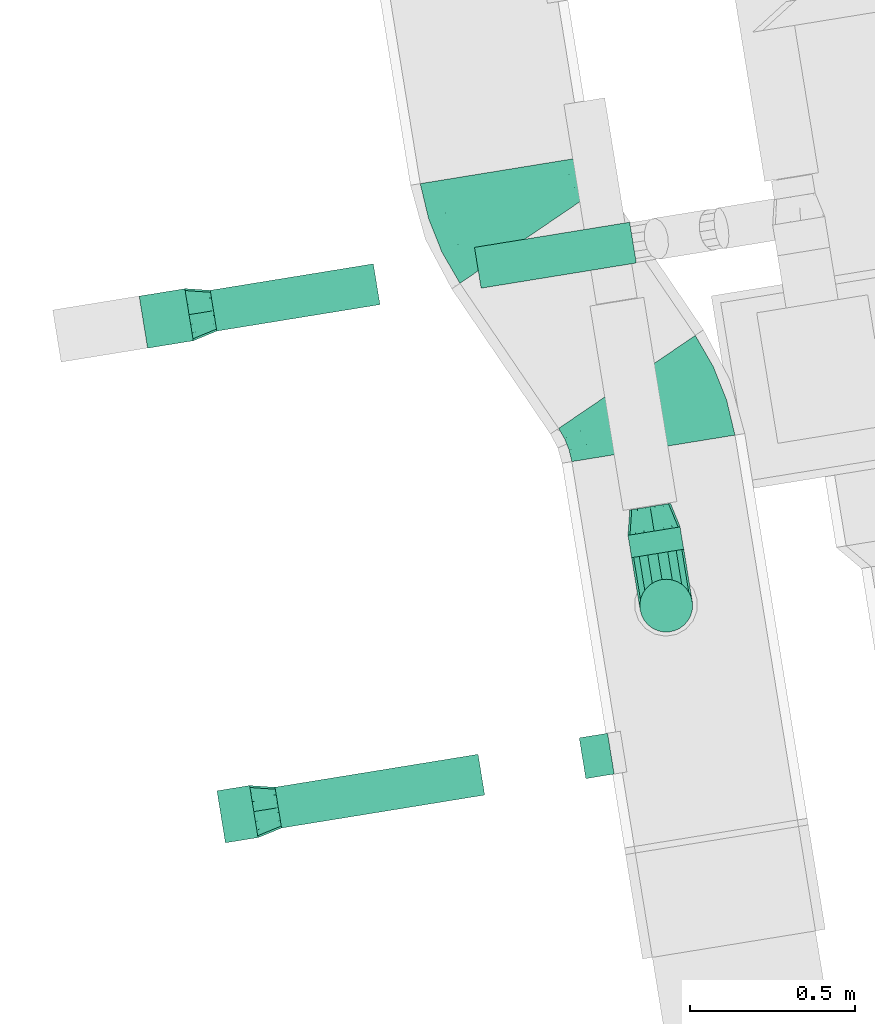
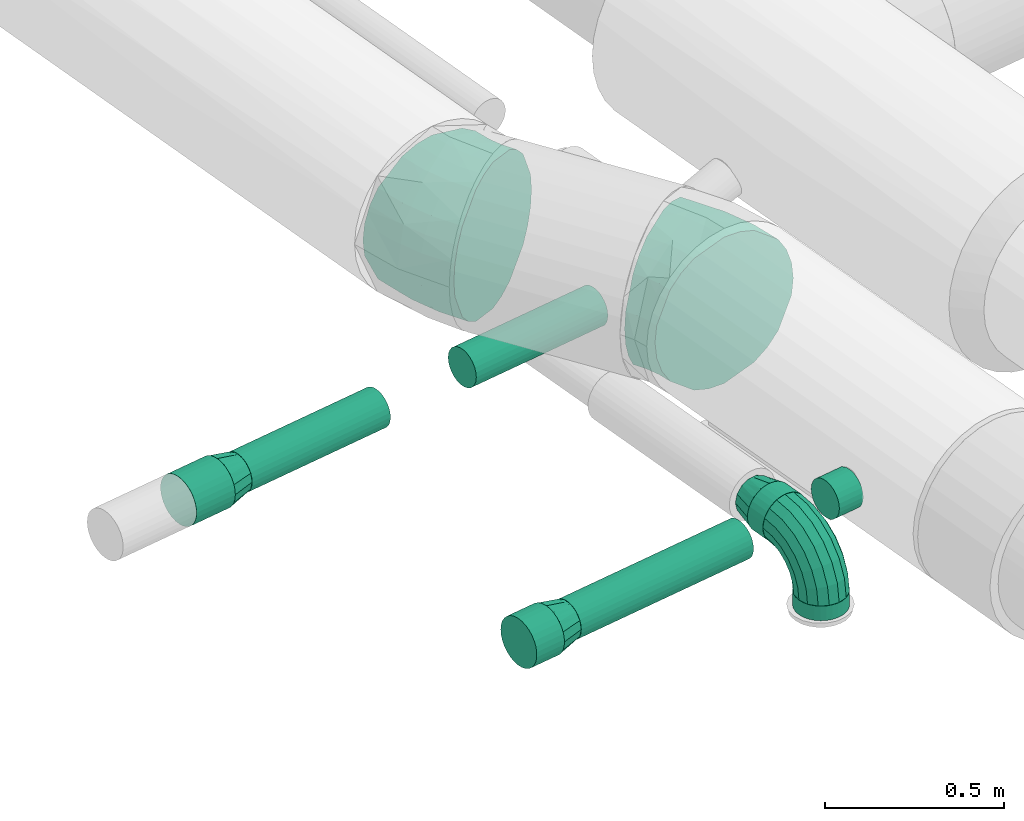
# One storey, part 16 of 39: 8 flow segments, 6 flow fittings.
"""IFC2X3 building model written with IfcOpenShell, lengths in millimetres."""

from ifc_helpers import new_model, entity, si_unit, converted_unit, derived_unit, direction, frame, frame_2d, origin, origin_with_axes, origin_2d_with_axis, place, context, subcontext, project, spatial, circle, extrude, faceted_brep, source, transform, mapped, material, type_object, element, save


model = new_model("IFC2X3")

# Units and contexts
plan_context = context("Plan", 3, precision=1e-05, world=origin_with_axes())
model_context = context("Model", 3, precision=0.01, world=origin(), true_north=direction((6.12323399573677e-17, 1.0)))
body_context = subcontext(model_context, "Body", "Model", "MODEL_VIEW")
ifc_project = project(units=[converted_unit("PLANEANGLEUNIT", "DEGREE", entity("IfcPositiveLengthMeasure", 0.0174532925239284), si_unit("PLANEANGLEUNIT", "RADIAN"), dimensions=[0, 0, 0, 0, 0, 0, 0]), si_unit("AREAUNIT", "SQUARE_METRE"), si_unit("LENGTHUNIT", "METRE", prefix="MILLI"), si_unit("MASSUNIT", "GRAM", prefix="KILO"), si_unit("POWERUNIT", "WATT"), si_unit("PRESSUREUNIT", "PASCAL", prefix="KILO"), si_unit("FORCEUNIT", "NEWTON", prefix="KILO"), si_unit("ELECTRICVOLTAGEUNIT", "VOLT"), si_unit("ELECTRICCURRENTUNIT", "AMPERE"), si_unit("THERMODYNAMICTEMPERATUREUNIT", "DEGREE_CELSIUS"), si_unit("TIMEUNIT", "SECOND"), si_unit("VOLUMEUNIT", "CUBIC_METRE"), derived_unit("LINEARVELOCITYUNIT", [(si_unit("LENGTHUNIT", "METRE"), 1), (si_unit("TIMEUNIT", "SECOND"), -1)]), derived_unit("VOLUMETRICFLOWRATEUNIT", [(si_unit("VOLUMEUNIT", "CUBIC_METRE"), 1), (si_unit("TIMEUNIT", "SECOND"), -1)]), derived_unit("THERMALTRANSMITTANCEUNIT", [(si_unit("POWERUNIT", "WATT"), 1), (si_unit("THERMODYNAMICTEMPERATUREUNIT", "KELVIN"), -1), (si_unit("AREAUNIT", "SQUARE_METRE"), -1)]), derived_unit("SOUNDPRESSUREUNIT", [(si_unit("PRESSUREUNIT", "PASCAL"), 1)])], contexts=[model_context, plan_context])

# Site, building, storey
site_placement = place(None, frame((-0.00071070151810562, 0.00438415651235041, 0.0), z_axis=(0.0, 0.0, 1.0), x_axis=(-0.160236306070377, 0.987078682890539, 0.0)))
site = spatial("IfcSite", under=ifc_project, at=site_placement, Name="Default", CompositionType="ELEMENT")
building_placement = place(site_placement, origin_with_axes())
building = spatial("IfcBuilding", under=site, at=building_placement, CompositionType="ELEMENT")
storey_placement = place(building_placement, frame((0.0, 0.0, 58999.9999999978), z_axis=(0.0, 0.0, 1.0), x_axis=(1.0, 0.0, 0.0)))
storey = spatial("IfcBuildingStorey", under=building, at=storey_placement, Name="Nivå F", CompositionType="ELEMENT", Elevation=58999.9999999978)

# Flow fittings
ifc_material_1 = material(Name="<Unnamed>")
duct_fitting_type_1 = type_object("IfcDuctFittingType", Name="magicirc_elbow_full_radius_1:magicirc_elbow_full_radius_001", PredefinedType="NOTDEFINED", material=ifc_material_1)
shared_shape_1 = source(origin(), body_context, "Body", "Brep", [
    faceted_brep([(-97.8834291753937, -71.8221983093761, 0.0), (-99.4595433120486, -65.9400602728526, 30.6146745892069), (-160.0, -73.910362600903, 30.6146745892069), (-160.0, -80.0, 0.0), (-103.947936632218, -49.1891483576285, 56.5685424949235), (-160.0, -56.568542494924, 56.5685424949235), (-110.665291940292, -24.119637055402, 73.9103626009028), (-160.0, -30.6146745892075, 73.9103626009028), (-118.588952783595, 5.45186779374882, 80.0), (-160.0, 0.0, 80.0), (-126.512613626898, 35.0233726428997, 73.910362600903), (-160.0, 30.6146745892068, 73.910362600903), (-133.229968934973, 60.0928839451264, 56.568542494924), (-160.0, 56.5685424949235, 56.568542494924), (-137.718362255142, 76.8437958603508, 30.6146745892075), (-160.0, 73.9103626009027, 30.6146745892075), (-139.294476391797, 82.7259338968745, 0.0), (-160.0, 80.0, 0.0), (-137.718362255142, 76.8437958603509, -30.6146745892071), (-160.0, 73.9103626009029, -30.6146745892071), (-133.229968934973, 60.0928839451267, -56.5685424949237), (-160.0, 56.5685424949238, -56.5685424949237), (-126.512613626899, 35.0233726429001, -73.9103626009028), (-160.0, 30.6146745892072, -73.9103626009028), (-118.588952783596, 5.45186779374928, -80.0), (-160.0, 0.0, -80.0), (-110.665291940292, -24.1196370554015, -73.9103626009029), (-160.0, -30.614674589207, -73.9103626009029), (-103.947936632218, -49.1891483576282, -56.5685424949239), (-160.0, -56.5685424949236, -56.5685424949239), (-99.4595433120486, -65.9400602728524, -30.6146745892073), (-160.0, -73.9103626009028, -30.6146745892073), (-40.0, -47.8460969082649, 0.0), (-43.0448186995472, -42.5723162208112, 30.6146745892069), (-51.7157287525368, -27.5538594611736, 56.5685424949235), (-64.6926627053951, -5.0771505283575, 73.9103626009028), (-80.0, 21.4359353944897, 80.0), (-95.3073372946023, 47.949021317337, 73.910362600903), (-108.284271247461, 70.4257302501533, 56.568542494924), (-116.95518130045, 85.444187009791, 30.6146745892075), (-120.0, 90.717967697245, 0.0), (-116.95518130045, 85.4441870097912, -30.6146745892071), (-108.284271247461, 70.4257302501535, -56.5685424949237), (-95.3073372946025, 47.9490213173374, -73.9103626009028), (-80.0, 21.4359353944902, -80.0), (-64.6926627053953, -5.07715052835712, -73.9103626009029), (-51.7157287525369, -27.5538594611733, -56.5685424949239), (-43.0448186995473, -42.572316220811, -30.6146745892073), (9.70562748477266, -9.70562748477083, 0.0), (5.39960358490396, -5.39960358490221, 30.6146745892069), (-6.86291501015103, 6.86291501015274, 56.5685424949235), (-25.2150710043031, 25.2150710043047, 73.9103626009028), (-46.862915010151, 46.8629150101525, 80.0), (-68.5107590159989, 68.5107590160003, 73.910362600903), (-86.8629150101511, 86.8629150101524, 56.568542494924), (-99.1254336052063, 99.1254336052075, 30.6146745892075), (-103.431457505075, 103.431457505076, 0.0), (-99.1254336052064, 99.1254336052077, -30.6146745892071), (-86.8629150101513, 86.8629150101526, -56.5685424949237), (-68.5107590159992, 68.5107590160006, -73.9103626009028), (-46.8629150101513, 46.8629150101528, -80.0), (-25.2150710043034, 25.215071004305, -73.9103626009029), (-6.86291501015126, 6.86291501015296, -56.5685424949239), (5.39960358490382, -5.39960358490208, -30.6146745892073), (47.8460969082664, 40.0, 0.0), (42.5723162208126, 43.0448186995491, 30.6146745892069), (27.553859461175, 51.7157287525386, 56.5685424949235), (5.07715052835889, 64.6926627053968, 73.9103626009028), (-21.4359353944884, 80.0, 80.0), (-47.9490213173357, 95.3073372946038, 73.910362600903), (-70.4257302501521, 108.284271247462, 56.568542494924), (-85.4441870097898, 116.955181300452, 30.6146745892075), (-90.7179676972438, 120.0, 0.0), (-85.44418700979, 116.955181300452, -30.6146745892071), (-70.4257302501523, 108.284271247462, -56.5685424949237), (-47.9490213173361, 95.307337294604, -73.9103626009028), (-21.4359353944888, 80.0, -80.0), (5.07715052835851, 64.692662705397, -73.9103626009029), (27.5538594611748, 51.7157287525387, -56.5685424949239), (42.5723162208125, 43.0448186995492, -30.6146745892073), (71.8221983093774, 97.8834291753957, 0.0), (65.9400602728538, 99.4595433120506, 30.6146745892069), (49.1891483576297, 103.94793663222, 56.5685424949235), (24.1196370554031, 110.665291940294, 73.9103626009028), (-5.45186779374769, 118.588952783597, 80.0), (-35.0233726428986, 126.5126136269, 73.910362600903), (-60.0928839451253, 133.229968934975, 56.568542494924), (-76.8437958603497, 137.718362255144, 30.6146745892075), (-82.7259338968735, 139.294476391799, 0.0), (-76.8437958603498, 137.718362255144, -30.6146745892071), (-60.0928839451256, 133.229968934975, -56.5685424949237), (-35.023372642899, 126.5126136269, -73.9103626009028), (-5.45186779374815, 118.588952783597, -80.0), (24.1196370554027, 110.665291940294, -73.9103626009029), (49.1891483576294, 103.94793663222, -56.5685424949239), (65.9400602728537, 99.4595433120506, -30.6146745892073), (80.0, 160.0, 0.0), (73.9103626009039, 160.0, 30.6146745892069), (56.5685424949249, 160.0, 56.5685424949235), (30.6146745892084, 160.0, 73.9103626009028), (0.0, 160.0, 80.0), (-30.6146745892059, 160.0, 73.910362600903), (-56.5685424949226, 160.0, 56.568542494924), (-73.9103626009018, 160.0, 30.6146745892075), (-80.0, 160.0, 0.0), (-73.910362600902, 160.0, -30.6146745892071), (-56.5685424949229, 160.0, -56.5685424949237), (-30.6146745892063, 160.0, -73.9103626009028), (0.0, 160.0, -80.0), (30.6146745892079, 160.0, -73.9103626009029), (56.5685424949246, 160.0, -56.5685424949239), (73.9103626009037, 160.0, -30.6146745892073)], [[[0, 1, 2, 3]], [[1, 4, 5, 2]], [[4, 6, 7, 5]], [[6, 8, 9, 7]], [[8, 10, 11, 9]], [[10, 12, 13, 11]], [[12, 14, 15, 13]], [[14, 16, 17, 15]], [[16, 18, 19, 17]], [[18, 20, 21, 19]], [[20, 22, 23, 21]], [[22, 24, 25, 23]], [[24, 26, 27, 25]], [[26, 28, 29, 27]], [[28, 30, 31, 29]], [[30, 0, 3, 31]], [[32, 33, 1, 0]], [[33, 34, 4, 1]], [[34, 35, 6, 4]], [[35, 36, 8, 6]], [[36, 37, 10, 8]], [[37, 38, 12, 10]], [[38, 39, 14, 12]], [[39, 40, 16, 14]], [[40, 41, 18, 16]], [[41, 42, 20, 18]], [[42, 43, 22, 20]], [[43, 44, 24, 22]], [[44, 45, 26, 24]], [[45, 46, 28, 26]], [[46, 47, 30, 28]], [[47, 32, 0, 30]], [[48, 49, 33, 32]], [[49, 50, 34, 33]], [[50, 51, 35, 34]], [[51, 52, 36, 35]], [[52, 53, 37, 36]], [[53, 54, 38, 37]], [[54, 55, 39, 38]], [[55, 56, 40, 39]], [[56, 57, 41, 40]], [[57, 58, 42, 41]], [[58, 59, 43, 42]], [[59, 60, 44, 43]], [[60, 61, 45, 44]], [[61, 62, 46, 45]], [[62, 63, 47, 46]], [[63, 48, 32, 47]], [[64, 65, 49, 48]], [[65, 66, 50, 49]], [[66, 67, 51, 50]], [[67, 68, 52, 51]], [[68, 69, 53, 52]], [[69, 70, 54, 53]], [[70, 71, 55, 54]], [[71, 72, 56, 55]], [[72, 73, 57, 56]], [[73, 74, 58, 57]], [[74, 75, 59, 58]], [[75, 76, 60, 59]], [[76, 77, 61, 60]], [[77, 78, 62, 61]], [[78, 79, 63, 62]], [[79, 64, 48, 63]], [[80, 81, 65, 64]], [[81, 82, 66, 65]], [[82, 83, 67, 66]], [[83, 84, 68, 67]], [[84, 85, 69, 68]], [[85, 86, 70, 69]], [[86, 87, 71, 70]], [[87, 88, 72, 71]], [[88, 89, 73, 72]], [[89, 90, 74, 73]], [[90, 91, 75, 74]], [[91, 92, 76, 75]], [[92, 93, 77, 76]], [[93, 94, 78, 77]], [[94, 95, 79, 78]], [[95, 80, 64, 79]], [[96, 97, 81, 80]], [[97, 98, 82, 81]], [[98, 99, 83, 82]], [[99, 100, 84, 83]], [[100, 101, 85, 84]], [[101, 102, 86, 85]], [[102, 103, 87, 86]], [[103, 104, 88, 87]], [[104, 105, 89, 88]], [[105, 106, 90, 89]], [[106, 107, 91, 90]], [[107, 108, 92, 91]], [[108, 109, 93, 92]], [[109, 110, 94, 93]], [[110, 111, 95, 94]], [[111, 96, 80, 95]], [[3, 2, 5, 7, 9, 11, 13, 15, 17, 19, 21, 23, 25, 27, 29, 31]], [[111, 110, 109, 108, 107, 106, 105, 104, 103, 102, 101, 100, 99, 98, 97, 96]]]),
])
flow_fitting_1_placement = place(storey_placement, frame((772033.041164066, -502458.791014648, 2610.0), z_axis=(0.0, -1.0, 0.0), x_axis=(-1.0, 0.0, 0.0)))
element("IfcFlowFitting", 1, at=flow_fitting_1_placement, inside=storey, type_object=duct_fitting_type_1, material=ifc_material_1, Name="magicirc_elbow_full_radius_1:magicirc_elbow_full_radius_001", ObjectType="magicirc_elbow_full_radius_1:magicirc_elbow_full_radius_001", context=body_context, shape_type="MappedRepresentation", body=[
    mapped(shared_shape_1, transform((0.0, 0.0, 0.0), scale=1.0)),
])
ifc_material_2 = material(Name="Material_Duct")
duct_fitting_type_2 = type_object("IfcDuctFittingType", Name="magicirc_reduction_001:magicirc_reduction_001", PredefinedType="NOTDEFINED", material=ifc_material_2)
shared_shape_2 = source(origin(), body_context, "Body", "Brep", [
    faceted_brep([(75.0, -62.4999999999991, 0.0), (75.0, -59.4052771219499, -13.5588668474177), (75.0, -56.3105542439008, -27.1177336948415), (75.0, -47.6393334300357, -37.991100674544), (75.0, -38.9681126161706, -48.8644676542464), (75.0, -26.4378354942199, -54.8987310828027), (75.0, -13.9075583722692, -60.9329945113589), (75.0, 0.0, -60.9329945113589), (75.0, 13.9075583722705, -60.9329945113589), (75.0, 26.4378354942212, -54.8987310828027), (75.0, 38.9681126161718, -48.8644676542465), (75.0, 47.6393334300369, -37.9911006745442), (75.0, 56.310554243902, -27.1177336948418), (75.0, 59.4052771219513, -13.5588668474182), (75.0, 62.5000000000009, 0.0), (75.0, 59.4052771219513, 13.5588668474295), (75.0, 56.3105542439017, 27.117733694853), (75.0, 47.6393334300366, 37.9911006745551), (75.0, 38.9681126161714, 48.8644676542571), (75.0, 26.4378354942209, 54.898731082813), (75.0, 13.9075583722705, 60.9329945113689), (75.0, 0.0, 60.932994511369), (75.0, -13.9075583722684, 60.9329945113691), (75.0, -26.4378354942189, 54.8987310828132), (75.0, -38.9681126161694, 48.8644676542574), (75.0, -47.6393334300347, 37.9911006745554), (75.0, -56.3105542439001, 27.1177336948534), (75.0, -59.4052771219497, 13.5588668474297), (0.0, 80.0, 0.0), (0.0, 76.9551813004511, -15.3073372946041), (0.0, 73.9103626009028, -30.6146745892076), (0.0, 65.2394525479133, -43.591608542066), (0.0, 56.5685424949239, -56.5685424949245), (0.0, 43.5916085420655, -65.2394525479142), (0.0, 30.6146745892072, -73.9103626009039), (0.0, 15.3073372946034, -76.9551813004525), (0.0, 0.0, -80.0), (0.0, -15.3073372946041, -76.9551813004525), (0.0, -30.6146745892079, -73.9103626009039), (0.0, -43.5916085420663, -65.2394525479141), (0.0, -56.5685424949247, -56.5685424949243), (0.0, -65.2394525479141, -43.5916085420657), (0.0, -73.9103626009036, -30.6146745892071), (0.0, -76.9551813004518, -15.3073372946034), (0.0, -80.0, 0.0), (0.0, -76.9551813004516, 15.3073372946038), (0.0, -73.9103626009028, 30.6146745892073), (0.0, -65.239452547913, 43.5916085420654), (0.0, -56.5685424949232, 56.5685424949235), (0.0, -43.5916085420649, 65.2394525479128), (0.0, -30.6146745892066, 73.9103626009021), (0.0, -15.3073372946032, 76.9551813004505), (0.0, 0.0, 80.0), (0.0, 15.3073372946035, 76.9551813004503), (0.0, 30.6146745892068, 73.9103626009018), (0.0, 43.591608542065, 65.2394525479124), (0.0, 56.5685424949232, 56.5685424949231), (0.0, 65.2394525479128, 43.591608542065), (0.0, 73.9103626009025, 30.6146745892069), (0.0, 76.9551813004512, 15.3073372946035)], [[[0, 1, 2, 3, 4, 5, 6, 7, 8, 9, 10, 11, 12, 13, 14, 15, 16, 17, 18, 19, 20, 21, 22, 23, 24, 25, 26, 27]], [[28, 29, 30, 31, 32, 33, 34, 35, 36, 37, 38, 39, 40, 41, 42, 43, 44, 45, 46, 47, 48, 49, 50, 51, 52, 53, 54, 55, 56, 57, 58, 59]], [[12, 30, 13]], [[6, 38, 37]], [[11, 32, 31]], [[40, 4, 3]], [[33, 32, 10]], [[31, 30, 12]], [[13, 30, 29]], [[9, 33, 10]], [[35, 34, 8]], [[35, 8, 7]], [[6, 37, 7]], [[12, 11, 31]], [[0, 43, 1]], [[34, 9, 8]], [[39, 5, 4]], [[43, 42, 1]], [[43, 0, 44]], [[33, 9, 34]], [[41, 40, 3]], [[35, 7, 36]], [[14, 13, 29]], [[6, 5, 38]], [[11, 10, 32]], [[2, 41, 3]], [[42, 2, 1]], [[14, 29, 28]], [[38, 5, 39]], [[41, 2, 42]], [[7, 37, 36]], [[4, 40, 39]], [[26, 46, 27]], [[20, 54, 53]], [[25, 48, 47]], [[56, 18, 17]], [[49, 48, 24]], [[47, 46, 26]], [[27, 46, 45]], [[23, 49, 24]], [[51, 50, 22]], [[51, 22, 21]], [[20, 53, 21]], [[26, 25, 47]], [[14, 59, 15]], [[50, 23, 22]], [[55, 19, 18]], [[59, 58, 15]], [[59, 14, 28]], [[49, 23, 50]], [[57, 56, 17]], [[51, 21, 52]], [[0, 27, 45]], [[20, 19, 54]], [[25, 24, 48]], [[16, 57, 17]], [[58, 16, 15]], [[0, 45, 44]], [[54, 19, 55]], [[57, 16, 58]], [[21, 53, 52]], [[18, 56, 55]]]),
])
for number, where, z_axis, x_axis, name in (
    (2, (773133.264064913, -501174.980498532, 2790.0), (0.0, 0.0, 1.0), (0.0, -1.0, 0.0), "magicirc_reduction_001:magicirc_reduction_001"),
    (3, (771617.878767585, -501127.480498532, 3130.0), (0.0, 0.0, 1.0), (0.0, -1.0, 0.0), "magicirc_reduction_001:magicirc_reduction_001"),
):
    element("IfcFlowFitting", number, at=place(storey_placement, frame(where, z_axis=z_axis, x_axis=x_axis)), inside=storey, type_object=duct_fitting_type_2, material=ifc_material_2, Name=name, ObjectType="magicirc_reduction_001:magicirc_reduction_001", context=body_context, shape_type="MappedRepresentation", body=[
        mapped(shared_shape_2, transform((0.0, 0.0, 0.0), scale=1.0)),
    ])
duct_fitting_type_3 = type_object("IfcDuctFittingType", Name="magicirc_elbow_full_radius_1:magicirc_elbow_full_radius_001", PredefinedType="NOTDEFINED", material=ifc_material_1)
shared_shape_3 = source(origin(), body_context, "Body", "Brep", [
    faceted_brep([(-2.14843684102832, -242.08122893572, 0.0), (-3.05687291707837, -235.879387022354, 55.6302334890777), (-110.847331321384, -243.731978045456, 55.6302334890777), (-110.847331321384, -250.0, 0.0), (-5.7366283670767, -217.584847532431, 108.470934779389), (-110.847331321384, -225.242216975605, 108.470934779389), (-10.0533290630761, -188.114975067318, 155.872450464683), (-110.847331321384, -195.457870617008, 155.872450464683), (-22.6605074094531, -102.046478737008, 225.242216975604), (-110.847331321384, -108.470934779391, 225.242216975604), (-30.3188084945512, -49.7636886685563, 243.731978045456), (-110.847331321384, -55.6302334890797, 243.731978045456), (-38.3814016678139, 5.27918070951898, 250.0), (-110.847331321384, 0.0, 250.0), (-54.1022959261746, 112.604840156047, 225.242216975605), (-110.847331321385, 108.470934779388, 225.242216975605), (-60.9722857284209, 159.505873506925, 195.457870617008), (-110.847331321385, 155.872450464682, 195.457870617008), (-66.7094742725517, 198.673336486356, 155.872450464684), (-110.847331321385, 195.457870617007, 155.872450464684), (-73.7059304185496, 246.437748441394, 55.6302334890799), (-110.847331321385, 243.731978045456, 55.6302334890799), (-74.6143664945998, 252.63959035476, 0.0), (-110.847331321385, 250.0, 0.0), (-73.7059304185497, 246.437748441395, -55.6302334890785), (-110.847331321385, 243.731978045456, -55.6302334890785), (-71.0261749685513, 228.143208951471, -108.470934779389), (-110.847331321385, 225.242216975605, -108.470934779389), (-66.7094742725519, 198.673336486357, -155.872450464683), (-110.847331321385, 195.457870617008, -155.872450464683), (-54.1022959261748, 112.604840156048, -225.242216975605), (-110.847331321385, 108.47093477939, -225.242216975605), (-46.4439948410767, 60.3220500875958, -243.731978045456), (-110.847331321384, 55.6302334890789, -243.731978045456), (-38.3814016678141, 5.27918070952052, -250.0), (-110.847331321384, 0.0, -250.0), (-22.6605074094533, -102.046478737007, -225.242216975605), (-110.847331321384, -108.470934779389, -225.242216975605), (-15.790517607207, -148.947512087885, -195.457870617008), (-110.847331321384, -155.872450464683, -195.457870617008), (-10.0533290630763, -188.114975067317, -155.872450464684), (-110.847331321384, -195.457870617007, -155.872450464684), (-3.05687291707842, -235.879387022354, -55.6302334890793), (-110.847331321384, -243.731978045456, -55.6302334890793), (104.25509321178, -218.492134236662, 0.0), (102.457404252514, -212.487434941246, 55.6302334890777), (97.1544810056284, -194.774437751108, 108.470934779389), (88.612234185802, -166.241346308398, 155.872450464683), (63.6640997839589, -82.9087740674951, 225.242216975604), (48.5092158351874, -32.2879364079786, 243.731978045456), (32.5542850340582, 21.005243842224, 250.0), (1.44447028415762, 124.919261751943, 225.242216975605), (-12.1504376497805, 170.329416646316, 195.457870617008), (-23.5036641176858, 208.251833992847, 155.872450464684), (-37.3488341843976, 254.497922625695, 55.6302334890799), (-39.1465231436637, 260.502621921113, 0.0), (-37.3488341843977, 254.497922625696, -55.6302334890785), (-32.0459109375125, 236.784925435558, -108.470934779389), (-23.5036641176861, 208.251833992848, -155.872450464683), (1.44447028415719, 124.919261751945, -225.242216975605), (16.5993542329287, 74.298424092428, -243.731978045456), (32.5542850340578, 21.0052438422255, -250.0), (63.6640997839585, -82.9087740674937, -225.242216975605), (77.2590077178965, -128.318928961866, -195.457870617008), (88.6122341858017, -166.241346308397, -155.872450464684), (102.457404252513, -212.487434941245, -55.6302334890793), (206.116364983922, -179.730840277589, 0.0), (203.467384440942, -174.050083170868, 55.6302334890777), (195.653273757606, -157.292668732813, 108.470934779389), (183.065865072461, -130.298883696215, 155.872450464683), (146.303597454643, -51.4619463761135, 225.242216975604), (123.972152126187, -3.57200732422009, 243.731978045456), (100.46179954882, 46.8461064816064, 250.0), (54.620001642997, 145.154159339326, 225.242216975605), (34.5872554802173, 188.114522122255, 195.457870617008), (17.8577340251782, 223.991096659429, 155.872450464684), (-2.54378534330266, 267.742296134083, 55.6302334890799), (-5.19276588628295, 273.423053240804, 0.0), (-2.54378534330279, 267.742296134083, -55.6302334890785), (5.27032534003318, 250.984881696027, -108.470934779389), (17.8577340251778, 223.99109665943, -155.872450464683), (54.6200016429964, 145.154159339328, -225.242216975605), (76.9514469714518, 97.2642202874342, -243.731978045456), (100.461799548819, 46.8461064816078, -250.0), (146.303597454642, -51.4619463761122, -225.242216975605), (166.336343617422, -94.4223091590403, -195.457870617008), (183.065865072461, -130.298883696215, -155.872450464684), (203.467384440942, -174.050083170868, -55.6302334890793)], [[[0, 1, 2, 3]], [[1, 4, 5, 2]], [[4, 6, 7, 5]], [[6, 8, 9, 7]], [[8, 10, 11, 9]], [[10, 12, 13, 11]], [[12, 14, 15, 13]], [[14, 16, 17, 15]], [[16, 18, 19, 17]], [[18, 20, 21, 19]], [[20, 22, 23, 21]], [[22, 24, 25, 23]], [[24, 26, 27, 25]], [[26, 28, 29, 27]], [[28, 30, 31, 29]], [[30, 32, 33, 31]], [[32, 34, 35, 33]], [[34, 36, 37, 35]], [[36, 38, 39, 37]], [[38, 40, 41, 39]], [[40, 42, 43, 41]], [[42, 0, 3, 43]], [[44, 45, 1, 0]], [[45, 46, 4, 1]], [[46, 47, 6, 4]], [[47, 48, 8, 6]], [[48, 49, 10, 8]], [[49, 50, 12, 10]], [[50, 51, 14, 12]], [[51, 52, 16, 14]], [[52, 53, 18, 16]], [[53, 54, 20, 18]], [[54, 55, 22, 20]], [[55, 56, 24, 22]], [[56, 57, 26, 24]], [[57, 58, 28, 26]], [[58, 59, 30, 28]], [[59, 60, 32, 30]], [[60, 61, 34, 32]], [[61, 62, 36, 34]], [[62, 63, 38, 36]], [[63, 64, 40, 38]], [[64, 65, 42, 40]], [[65, 44, 0, 42]], [[66, 67, 45, 44]], [[67, 68, 46, 45]], [[68, 69, 47, 46]], [[69, 70, 48, 47]], [[70, 71, 49, 48]], [[71, 72, 50, 49]], [[72, 73, 51, 50]], [[73, 74, 52, 51]], [[74, 75, 53, 52]], [[75, 76, 54, 53]], [[76, 77, 55, 54]], [[77, 78, 56, 55]], [[78, 79, 57, 56]], [[79, 80, 58, 57]], [[80, 81, 59, 58]], [[81, 82, 60, 59]], [[82, 83, 61, 60]], [[83, 84, 62, 61]], [[84, 85, 63, 62]], [[85, 86, 64, 63]], [[86, 87, 65, 64]], [[87, 66, 44, 65]], [[3, 2, 5, 7, 9, 11, 13, 15, 17, 19, 21, 23, 25, 27, 29, 31, 33, 35, 37, 39, 41, 43]], [[87, 86, 85, 84, 83, 82, 81, 80, 79, 78, 77, 76, 75, 74, 73, 72, 71, 70, 69, 68, 67, 66]]]),
])
for number, where, z_axis, x_axis, name in (
    (4, (772619.719245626, -502496.834705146, 3130.0), (0.0, 0.0, 1.0), (1.0, 0.0, 0.0), "magicirc_elbow_full_radius_1:magicirc_elbow_full_radius_001"),
    (5, (773301.672446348, -502178.834705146, 3130.03415297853), (0.0, 0.0, 1.0), (-1.0, 0.0, 0.0), "magicirc_elbow_full_radius_1:magicirc_elbow_full_radius_001"),
):
    element("IfcFlowFitting", number, at=place(storey_placement, frame(where, z_axis=z_axis, x_axis=x_axis)), inside=storey, type_object=duct_fitting_type_3, material=ifc_material_1, Name=name, ObjectType="magicirc_elbow_full_radius_1:magicirc_elbow_full_radius_001", context=body_context, shape_type="MappedRepresentation", body=[
        mapped(shared_shape_3, transform((0.0, 0.0, 0.0), scale=1.0)),
    ])
duct_fitting_type_4 = type_object("IfcDuctFittingType", Name="magicirc_reduction_001:magicirc_reduction_001", PredefinedType="NOTDEFINED", material=ifc_material_2)
shared_shape_4 = source(origin(), body_context, "Body", "Brep", [
    faceted_brep([(75.0, -56.5685424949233, 56.5685424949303), (75.0, -65.2394525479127, 43.5916085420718), (75.0, -73.9103626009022, 30.6146745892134), (75.0, -76.9551813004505, 15.3073372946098), (75.0, -80.0, 0.0), (75.0, -76.9551813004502, -15.3073372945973), (75.0, -73.9103626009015, -30.6146745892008), (75.0, -65.239452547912, -43.5916085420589), (75.0, -56.5685424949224, -56.5685424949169), (75.0, -43.5916085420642, -65.2394525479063), (75.0, -30.6146745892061, -73.9103626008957), (75.0, -15.3073372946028, -76.9551813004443), (75.0, 0.0, -80.0), (75.0, 15.3073372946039, -76.9551813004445), (75.0, 30.6146745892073, -73.9103626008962), (75.0, 43.5916085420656, -65.2394525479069), (75.0, 56.5685424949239, -56.5685424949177), (75.0, 65.2394525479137, -43.5916085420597), (75.0, 73.9103626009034, -30.6146745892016), (75.0, 76.9551813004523, -15.3073372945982), (75.0, 80.0, 0.0), (75.0, 76.9551813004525, 15.3073372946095), (75.0, 73.9103626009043, 30.6146745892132), (75.0, 65.2394525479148, 43.5916085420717), (75.0, 56.5685424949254, 56.5685424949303), (75.0, 43.591608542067, 65.2394525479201), (75.0, 30.6146745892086, 73.9103626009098), (75.0, 15.3073372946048, 76.9551813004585), (75.0, 0.0, 80.0), (75.0, -15.3073372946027, 76.9551813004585), (75.0, -30.6146745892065, 73.9103626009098), (75.0, -43.5916085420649, 65.2394525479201), (0.0, 56.3105542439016, 27.1177336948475), (0.0, 59.4052771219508, 13.5588668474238), (0.0, 62.5000000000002, 0.0), (0.0, 59.4052771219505, -13.558866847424), (0.0, 56.3105542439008, -27.1177336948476), (0.0, 47.6393334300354, -37.9911006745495), (0.0, 38.9681126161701, -48.8644676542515), (0.0, 26.4378354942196, -54.8987310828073), (0.0, 13.9075583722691, -60.9329945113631), (0.0, 0.0, -60.932994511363), (0.0, -13.9075583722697, -60.9329945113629), (0.0, -26.4378354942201, -54.898731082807), (0.0, -38.9681126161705, -48.864467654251), (0.0, -47.6393334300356, -37.991100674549), (0.0, -56.3105542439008, -27.1177336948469), (0.0, -59.4052771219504, -13.5588668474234), (0.0, -62.4999999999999, 0.0), (0.0, -59.4052771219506, 13.558866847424), (0.0, -56.3105542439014, 27.1177336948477), (0.0, -47.6393334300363, 37.9911006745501), (0.0, -38.9681126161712, 48.8644676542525), (0.0, -26.4378354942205, 54.8987310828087), (0.0, -13.9075583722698, 60.9329945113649), (0.0, 0.0, 60.9329945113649), (0.0, 13.9075583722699, 60.9329945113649), (0.0, 26.4378354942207, 54.8987310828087), (0.0, 38.9681126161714, 48.8644676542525), (0.0, 47.6393334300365, 37.99110067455)], [[[0, 1, 2, 3, 4, 5, 6, 7, 8, 9, 10, 11, 12, 13, 14, 15, 16, 17, 18, 19, 20, 21, 22, 23, 24, 25, 26, 27, 28, 29, 30, 31]], [[32, 33, 34, 35, 36, 37, 38, 39, 40, 41, 42, 43, 44, 45, 46, 47, 48, 49, 50, 51, 52, 53, 54, 55, 56, 57, 58, 59]], [[46, 6, 47]], [[9, 43, 10]], [[7, 6, 46]], [[17, 16, 37]], [[40, 13, 41]], [[41, 11, 42]], [[38, 16, 15]], [[46, 45, 7]], [[48, 5, 4]], [[12, 41, 13]], [[43, 9, 44]], [[48, 47, 5]], [[10, 43, 42]], [[39, 38, 15]], [[34, 19, 35]], [[17, 36, 18]], [[40, 14, 13]], [[45, 8, 7]], [[45, 44, 8]], [[39, 14, 40]], [[39, 15, 14]], [[36, 17, 37]], [[47, 6, 5]], [[16, 38, 37]], [[35, 18, 36]], [[11, 10, 42]], [[19, 34, 20]], [[11, 41, 12]], [[19, 18, 35]], [[9, 8, 44]], [[32, 22, 33]], [[25, 57, 26]], [[23, 22, 32]], [[1, 0, 51]], [[54, 29, 55]], [[55, 27, 56]], [[52, 0, 31]], [[32, 59, 23]], [[34, 21, 20]], [[28, 55, 29]], [[57, 25, 58]], [[34, 33, 21]], [[26, 57, 56]], [[53, 52, 31]], [[48, 3, 49]], [[1, 50, 2]], [[54, 30, 29]], [[59, 24, 23]], [[59, 58, 24]], [[53, 30, 54]], [[53, 31, 30]], [[50, 1, 51]], [[33, 22, 21]], [[0, 52, 51]], [[49, 2, 50]], [[27, 26, 56]], [[3, 48, 4]], [[27, 55, 28]], [[3, 2, 49]], [[25, 24, 58]]]),
])
flow_fitting_2_placement = place(storey_placement, frame((772336.478900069, -502458.791014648, 2610.0), z_axis=(0.0, 0.0, 1.0), x_axis=(-1.0, 0.0, 0.0)))
element("IfcFlowFitting", 6, at=flow_fitting_2_placement, inside=storey, type_object=duct_fitting_type_4, material=ifc_material_2, Name="magicirc_reduction_001:magicirc_reduction_001", ObjectType="magicirc_reduction_001:magicirc_reduction_001", context=body_context, shape_type="MappedRepresentation", body=[
    mapped(shared_shape_4, transform((0.0, 0.0, 0.0), scale=1.0)),
])

# Flow segments
duct_segment_type = type_object("IfcDuctSegmentType", Name="Round Duct:KK001T - Spiro kanaler, Forsinket stål", PredefinedType="NOTDEFINED")
flow_segment_1_placement = place(storey_placement, origin_with_axes())
element("IfcFlowSegment", 7, at=flow_segment_1_placement, inside=storey, type_object=duct_segment_type, Name="Round Duct:KK001T - Spiro kanaler, Forsinket stål", ObjectType="Round Duct:KK001T - Spiro kanaler, Forsinket stål", context=body_context, shape_type="SweptSolid", body=[
    extrude(circle(Radius=80.0, at=origin_2d_with_axis()), frame((772193.041164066, -502458.791014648, 2610.0), z_axis=(1.0, 0.0, 0.0), x_axis=(0.0, 1.0, 0.0)), (0.0, 0.0, 1.0), 68.4377360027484),
])
flow_segment_2_placement = place(storey_placement, origin_with_axes())
element("IfcFlowSegment", 8, at=flow_segment_2_placement, inside=storey, type_object=duct_segment_type, Name="Round Duct:KK001T - Spiro kanaler, Forsinket stål", ObjectType="Round Duct:KK001T - Spiro kanaler, Forsinket stål", context=body_context, shape_type="SweptSolid", body=[
    extrude(circle(Radius=80.0, at=origin_2d_with_axis()), frame((772033.041164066, -502458.791014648, 2400.0), z_axis=(0.0, 0.0, 1.0), x_axis=(0.0, 1.0, 0.0)), (0.0, 0.0, 1.0), 50.000000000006),
])
flow_segment_3_placement = place(storey_placement, origin_with_axes())
element("IfcFlowSegment", 9, at=flow_segment_3_placement, inside=storey, type_object=duct_segment_type, Name="Round Duct:KK001T - Spiro kanaler, Forsinket stål", ObjectType="Round Duct:KK001T - Spiro kanaler, Forsinket stål", context=body_context, shape_type="SweptSolid", body=[
    extrude(circle(Radius=80.0, at=origin_2d_with_axis()), frame((773133.264064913, -501174.980498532, 2790.0), z_axis=(0.0, 1.0, 0.0), x_axis=(-1.0, 0.0, 0.0)), (0.0, 0.0, 1.0), 139.999999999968),
])
flow_segment_4_placement = place(storey_placement, origin_with_axes())
element("IfcFlowSegment", 10, at=flow_segment_4_placement, inside=storey, type_object=duct_segment_type, Name="Round Duct:KK001T - Spiro kanaler, Forsinket stål", ObjectType="Round Duct:KK001T - Spiro kanaler, Forsinket stål", context=body_context, shape_type="SweptSolid", body=[
    extrude(circle(Radius=62.5, at=origin_2d_with_axis()), frame((773133.264064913, -502535.568149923, 2790.0), z_axis=(0.0, 1.0, 0.0), x_axis=(-1.0, 0.0, 0.0)), (0.0, 0.0, 1.0), 475.587651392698),
])
flow_segment_5_placement = place(storey_placement, origin_with_axes())
element("IfcFlowSegment", 11, at=flow_segment_5_placement, inside=storey, type_object=duct_segment_type, Name="Round Duct:KK001T - Spiro kanaler, Forsinket stål", ObjectType="Round Duct:KK001T - Spiro kanaler, Forsinket stål", context=body_context, shape_type="SweptSolid", body=[
    extrude(circle(Radius=62.5, at=frame_2d((0.0, 8.66293703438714e-12), x_axis=(1.0, 0.0))), frame((773133.264064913, -501749.98049853, 2790.0), z_axis=(0.0, 1.0, 0.0), x_axis=(-1.0, 0.0, 0.0)), (0.0, 0.0, 1.0), 499.999999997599),
])
flow_segment_6_placement = place(storey_placement, origin_with_axes())
element("IfcFlowSegment", 12, at=flow_segment_6_placement, inside=storey, type_object=duct_segment_type, Name="Round Duct:KK001T - Spiro kanaler, Forsinket stål", ObjectType="Round Duct:KK001T - Spiro kanaler, Forsinket stål", context=body_context, shape_type="SweptSolid", body=[
    extrude(circle(Radius=79.9999999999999, at=origin_2d_with_axis()), frame((771617.878767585, -501127.480498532, 3130.0), z_axis=(0.0, 1.0, 0.0), x_axis=(1.0, 0.0, 0.0)), (0.0, 0.0, 1.0), 99.9999999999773),
])
flow_segment_7_placement = place(storey_placement, origin_with_axes())
element("IfcFlowSegment", 13, at=flow_segment_7_placement, inside=storey, type_object=duct_segment_type, Name="Round Duct:KK001T - Spiro kanaler, Forsinket stål", ObjectType="Round Duct:KK001T - Spiro kanaler, Forsinket stål", context=body_context, shape_type="SweptSolid", body=[
    extrude(circle(Radius=62.5, at=origin_2d_with_axis()), frame((771617.878767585, -501824.98049853, 3130.0), z_axis=(0.0, 1.0, 0.0), x_axis=(1.0, 0.0, 0.0)), (0.0, 0.0, 1.0), 622.499999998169),
])
flow_segment_8_placement = place(storey_placement, origin_with_axes())
element("IfcFlowSegment", 14, at=flow_segment_8_placement, inside=storey, type_object=duct_segment_type, Name="Round Duct:KK001T - Spiro kanaler, Forsinket stål", ObjectType="Round Duct:KK001T - Spiro kanaler, Forsinket stål", context=body_context, shape_type="SweptSolid", body=[
    extrude(circle(Radius=62.5, at=origin_2d_with_axis()), frame((771617.878767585, -502221.834705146, 3130.0), z_axis=(0.0, 1.0, 0.0), x_axis=(1.0, 0.0, 0.0)), (0.0, 0.0, 1.0), 86.8542066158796),
])

save(model, "model.ifc")
